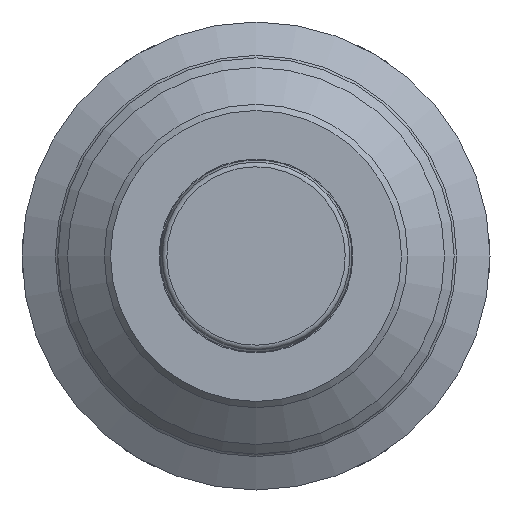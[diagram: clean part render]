
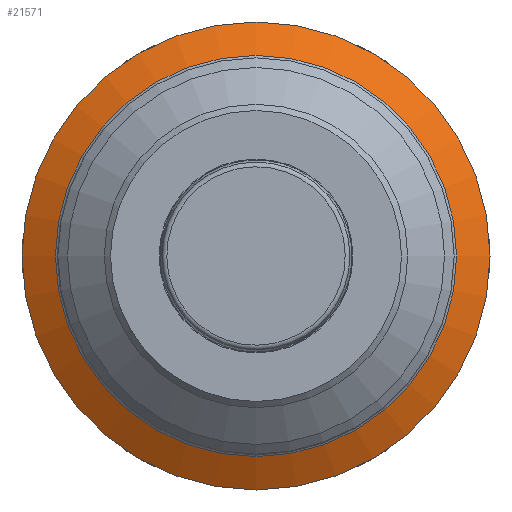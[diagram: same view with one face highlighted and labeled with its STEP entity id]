
A CAD part, front view. The second image highlights one B-rep face of the part: STEP entity #21571.
In plain terms, the highlighted conical face has half-angle 60 degrees and reference radius 17.45 mm.
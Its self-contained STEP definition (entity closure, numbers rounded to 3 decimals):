
#867=CONICAL_SURFACE('',#22582,17.45,1.047);
#1333=CIRCLE('',#22583,18.9);
#1334=CIRCLE('',#22584,16.2);
#1335=CIRCLE('',#22585,16.2);
#1909=FACE_OUTER_BOUND('',#3094,.T.);
#3094=EDGE_LOOP('',(#16567,#16568,#16569,#16570,#16571));
#6109=LINE('',#38176,#7292);
#7292=VECTOR('',#24095,17.45);
#9338=VERTEX_POINT('',#38173);
#9339=VERTEX_POINT('',#38175);
#9340=VERTEX_POINT('',#38177);
#11959=EDGE_CURVE('',#9338,#9338,#1333,.T.);
#11960=EDGE_CURVE('',#9338,#9339,#6109,.T.);
#11961=EDGE_CURVE('',#9340,#9339,#1334,.T.);
#11962=EDGE_CURVE('',#9339,#9340,#1335,.T.);
#16567=ORIENTED_EDGE('',*,*,#11959,.F.);
#16568=ORIENTED_EDGE('',*,*,#11960,.T.);
#16569=ORIENTED_EDGE('',*,*,#11961,.F.);
#16570=ORIENTED_EDGE('',*,*,#11962,.F.);
#16571=ORIENTED_EDGE('',*,*,#11960,.F.);
#21571=ADVANCED_FACE('',(#1909),#867,.T.);
#22582=AXIS2_PLACEMENT_3D('',#38172,#24091,#24092);
#22583=AXIS2_PLACEMENT_3D('',#38174,#24093,#24094);
#22584=AXIS2_PLACEMENT_3D('',#38178,#24096,#24097);
#22585=AXIS2_PLACEMENT_3D('',#38179,#24098,#24099);
#24091=DIRECTION('center_axis',(0.,1.,0.));
#24092=DIRECTION('ref_axis',(-1.,0.,0.));
#24093=DIRECTION('center_axis',(0.,1.,0.));
#24094=DIRECTION('ref_axis',(1.,0.,0.));
#24095=DIRECTION('',(-0.866,-0.5,0.));
#24096=DIRECTION('center_axis',(0.,-1.,0.));
#24097=DIRECTION('ref_axis',(1.,0.,0.));
#24098=DIRECTION('center_axis',(0.,-1.,0.));
#24099=DIRECTION('ref_axis',(1.,0.,0.));
#38172=CARTESIAN_POINT('Origin',(0.,-1.163,0.));
#38173=CARTESIAN_POINT('',(18.9,-0.326,0.));
#38174=CARTESIAN_POINT('Origin',(0.,-0.326,0.));
#38175=CARTESIAN_POINT('',(16.2,-1.885,0.));
#38176=CARTESIAN_POINT('',(17.45,-1.163,0.));
#38177=CARTESIAN_POINT('',(0.,-1.885,-16.2));
#38178=CARTESIAN_POINT('Origin',(0.,-1.885,0.));
#38179=CARTESIAN_POINT('Origin',(0.,-1.885,0.));
